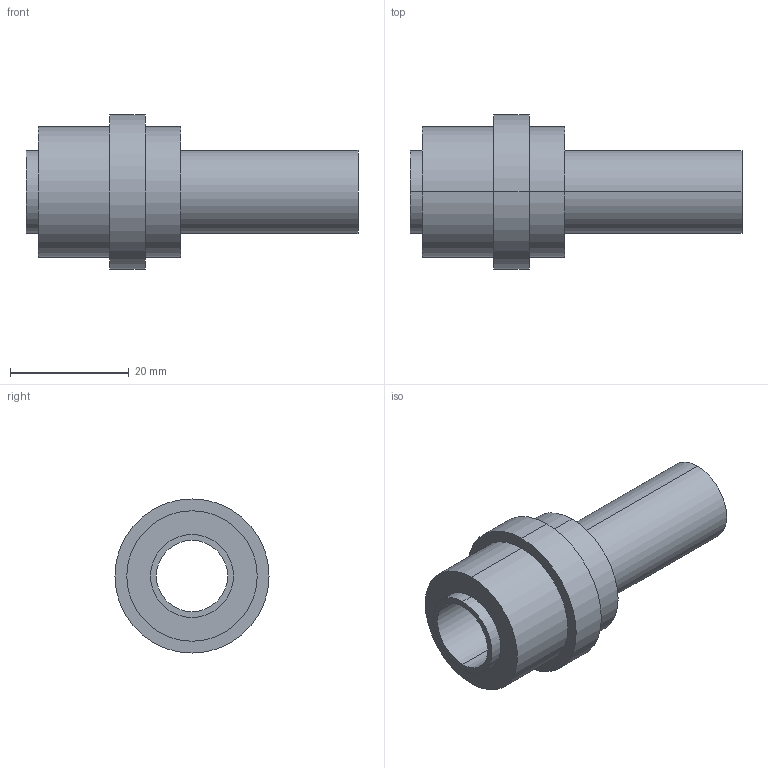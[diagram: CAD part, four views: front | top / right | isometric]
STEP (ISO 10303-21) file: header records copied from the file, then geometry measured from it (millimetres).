
FILE_DESCRIPTION (( 'STEP AP214' ), '1' );
FILE_NAME ('BR12-12x56.STEP', '2020-06-22T10:59:00', ( '' ), ( '' ), 'SwSTEP 2.0', 'SolidWorks 2018', '' );
FILE_SCHEMA (( 'AUTOMOTIVE_DESIGN' ));
Length unit declared in the file: millimetre
Products named in the file (1): BR12-12x56
Bounding box: 56 x 26 x 26 mm (x, y, z)
Volume: 8620.5 mm3; surface area: 6088.4 mm2
Topology: 1 solids, 1 shells, 18 faces, 36 edges, 24 vertices
Faces by surface type: cylinder 12, plane 6
Entity records: 522 total; most frequent: DIRECTION 98, CARTESIAN_POINT 79, ORIENTED_EDGE 72, AXIS2_PLACEMENT_3D 43, EDGE_CURVE 36, VERTEX_POINT 24, EDGE_LOOP 24, CIRCLE 24
